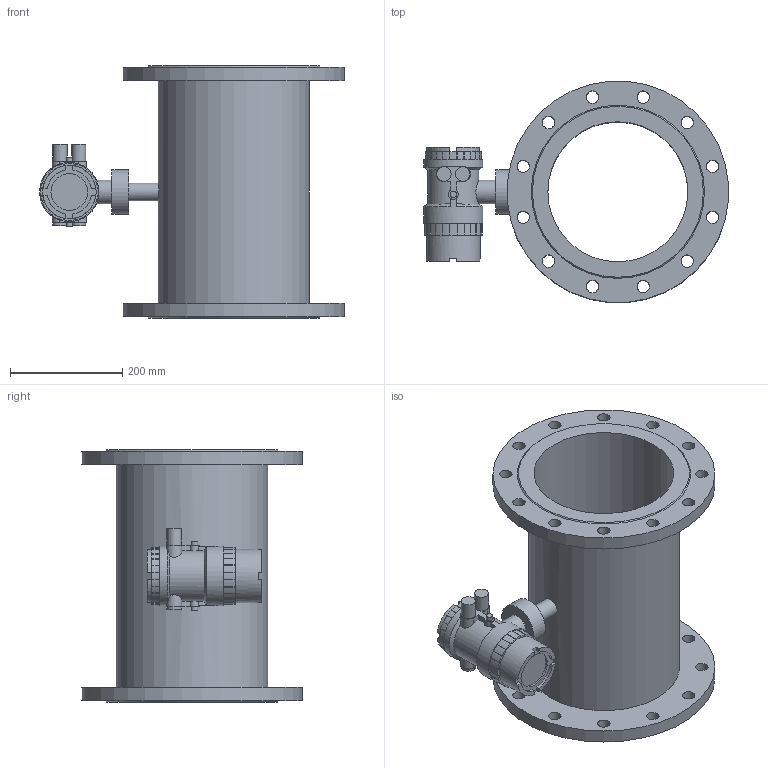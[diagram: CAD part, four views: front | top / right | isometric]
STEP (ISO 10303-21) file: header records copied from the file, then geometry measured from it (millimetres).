
FILE_DESCRIPTION( (''), '2;1');
FILE_NAME( 'QMKC_DN250.step', '2024-12-10T10:39:49+08:00', (''), (''), '', '', '');
FILE_SCHEMA (('AUTOMOTIVE_DESIGN { 1 0 10303 214 3 1 1 1 }'));
Length unit declared in the file: millimetre
Products named in the file (1): QMKC DN250
Bounding box: 544 x 394.49 x 450 mm (x, y, z)
Volume: 8451895.3 mm3; surface area: 1174593.4 mm2
Topology: 1 solids, 1 shells, 223 faces, 604 edges, 405 vertices
Faces by surface type: cylinder 109, plane 108, cone 6
Full cylindrical faces by diameter (mm): 11.6 x2, 22 x24, 25.5 x4, 32 x1, 42 x1, 65.5 x1, 80 x1, 95.5 x1, 105.9 x2, 250 x1, 270 x1, 396 x2
Entity records: 7048 total; most frequent: CARTESIAN_POINT 1336, DIRECTION 1204, ORIENTED_EDGE 1102, EDGE_CURVE 551, AXIS2_PLACEMENT_3D 453, VERTEX_POINT 395, EDGE_LOOP 338, LINE 298
